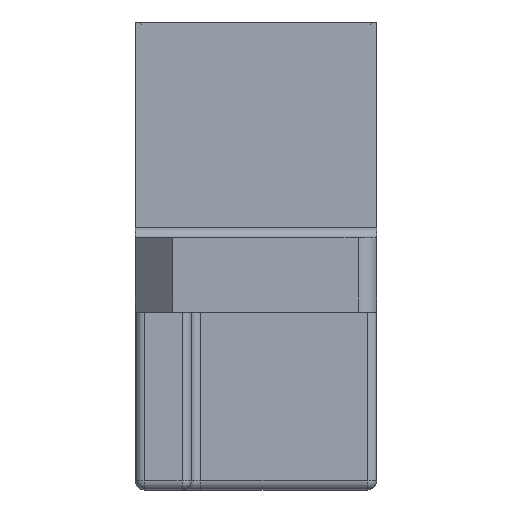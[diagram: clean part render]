
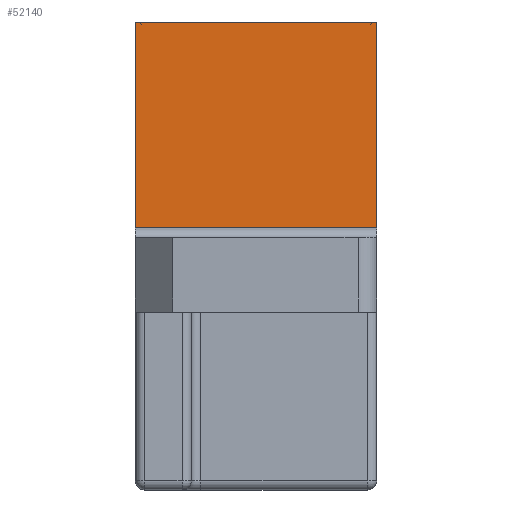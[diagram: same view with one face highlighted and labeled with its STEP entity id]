
A CAD part, left-side view. The second image highlights one B-rep face of the part: STEP entity #52140.
In plain terms, the highlighted planar face has unit normal (-1, 0, 0) as drawn and (1, 0, 0) by its records, which use the part's own axes.
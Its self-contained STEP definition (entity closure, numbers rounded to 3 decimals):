
#22770=CARTESIAN_POINT('',(137.924,-116.706,13.8));
#22780=VERTEX_POINT('',#22770);
#22810=CARTESIAN_POINT('',(137.924,-116.706,0.));
#22820=DIRECTION('',(0.,0.,-1.));
#22830=VECTOR('',#22820,1.);
#22840=LINE('',#22810,#22830);
#22850=CARTESIAN_POINT('',(137.924,-116.706,2.8));
#22860=VERTEX_POINT('',#22850);
#22870=EDGE_CURVE('',#22780,#22860,#22840,.T.);
#45040=CARTESIAN_POINT('',(137.924,-103.806,2.8));
#45050=VERTEX_POINT('',#45040);
#45080=CARTESIAN_POINT('',(137.924,-103.806,0.));
#45090=DIRECTION('',(0.,0.,1.));
#45100=VECTOR('',#45090,1.);
#45110=LINE('',#45080,#45100);
#45120=CARTESIAN_POINT('',(137.924,-103.806,13.8));
#45130=VERTEX_POINT('',#45120);
#45140=EDGE_CURVE('',#45050,#45130,#45110,.T.);
#47530=CARTESIAN_POINT('',(137.924,-220.512,13.8));
#47540=DIRECTION('',(0.,1.,0.));
#47550=VECTOR('',#47540,1.);
#47560=LINE('',#47530,#47550);
#47570=EDGE_CURVE('',#22780,#45130,#47560,.T.);
#51980=CARTESIAN_POINT('',(137.924,-117.996,2.3));
#51990=DIRECTION('',(-1.,-0.,-0.));
#52000=DIRECTION('',(0.,0.,-1.));
#52010=AXIS2_PLACEMENT_3D('',#51980,#51990,#52000);
#52020=PLANE('',#52010);
#52030=ORIENTED_EDGE('',*,*,#22870,.T.);
#52040=ORIENTED_EDGE('',*,*,#47570,.F.);
#52050=ORIENTED_EDGE('',*,*,#45140,.T.);
#52060=CARTESIAN_POINT('',(137.924,0.,2.8));
#52070=DIRECTION('',(0.,1.,0.));
#52080=VECTOR('',#52070,1.);
#52090=LINE('',#52060,#52080);
#52100=EDGE_CURVE('',#22860,#45050,#52090,.T.);
#52110=ORIENTED_EDGE('',*,*,#52100,.T.);
#52120=EDGE_LOOP('',(#52110,#52050,#52040,#52030));
#52130=FACE_OUTER_BOUND('',#52120,.T.);
#52140=ADVANCED_FACE('',(#52130),#52020,.F.);
